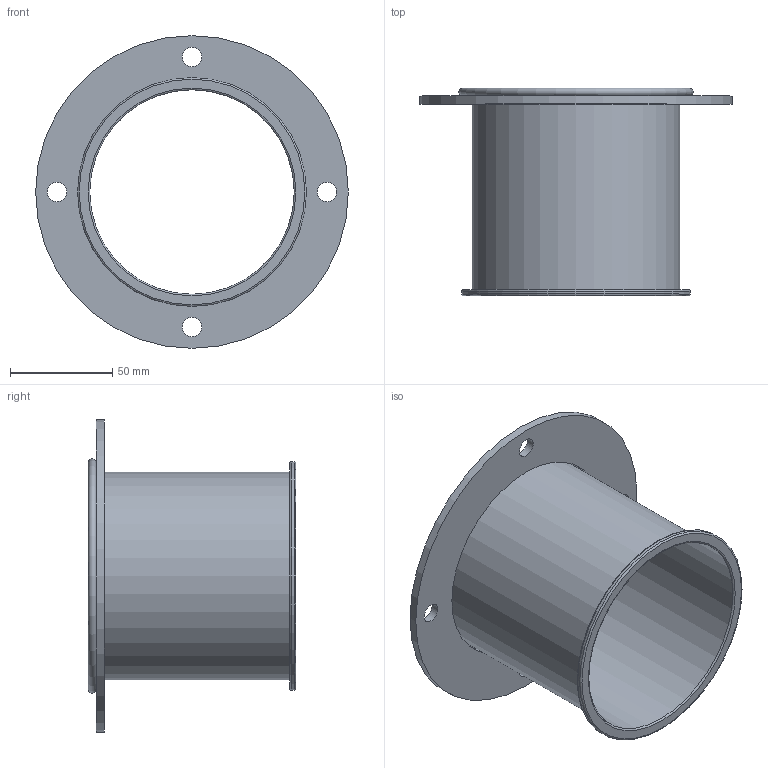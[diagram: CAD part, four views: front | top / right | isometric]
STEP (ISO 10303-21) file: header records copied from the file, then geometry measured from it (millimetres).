
FILE_DESCRIPTION(/* description */ (''),/* implementation_level */ '2;1');
FILE_NAME(/* name */ 'EA120-41B.stp',/* time_stamp */ '2021-02-23T13:42:30+01:00',/* author */ (''),/* organization */ (''),/* preprocessor_version */ 'ST-DEVELOPER v11',/* originating_system */ 'SIEMENS UGS NX 6.0',/* authorisation */ '');
FILE_SCHEMA (('CONFIG_CONTROL_DESIGN'));
Length unit declared in the file: millimetre
Products named in the file (1): gars4FD7yzg2
Bounding box: 153 x 101.5 x 153 mm (x, y, z)
Volume: 77677.8 mm3; surface area: 103857.7 mm2
Topology: 3 solids, 3 shells, 28 faces, 57 edges, 39 vertices
Faces by surface type: cylinder 13, plane 10, torus 5
Full cylindrical faces by diameter (mm): 9.5 x4, 100 x2, 101.6 x2, 103 x1, 111.6 x2, 112 x1, 153 x1
Entity records: 714 total; most frequent: DIRECTION 122, CARTESIAN_POINT 93, FACE_BOUND 64, EDGE_LOOP 64, ORIENTED_EDGE 64, AXIS2_PLACEMENT_3D 61, VERTEX_POINT 32, EDGE_CURVE 32
